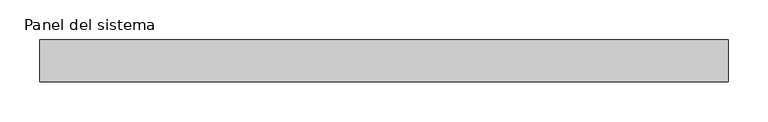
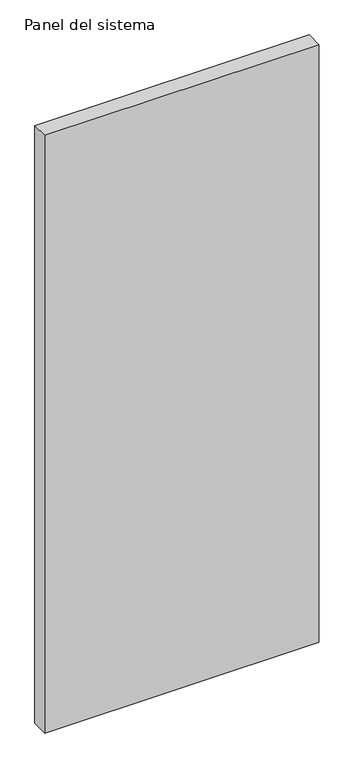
"""IFC4 building model written with IfcOpenShell, lengths in millimetres: plate geometry, Panel del sistema : HIANSA - CHAPA PERFILADA CUBIERTA - MT53MA7 Vert."""

import ifcopenshell
import ifcopenshell.guid

model = None  # the IFC model being written
_history = None  # IfcOwnerHistory: only IFC2X3 demands one
_inside = {}  # id of a spatial element -> (the spatial element, [elements in it])
_under = {}  # id of a project, library or spatial element -> (it, [spatial elements below it])
_declared = {}  # id of a project -> (the project, [libraries it declares])
_typed = {}  # id of a type object -> (the type object, [elements of that type])
_made_of = {}  # id of a material, layer set ... -> (it, [elements and type objects made of it])


def new_model(schema):
    """Start an empty IFC model of exactly this schema.

    Asked for "IFC4X3", IfcOpenShell would pick the latest addendum, in which some entities
    have other attributes; the version numbers below select the first issue.
    IFC2X3 requires an IfcOwnerHistory on every rooted entity: one is made here for all.
    """
    global model, _history
    if schema == "IFC4X3":
        model = ifcopenshell.file(schema_version=(4, 3, 0, 0))
    else:
        model = ifcopenshell.file(schema=schema)
    _inside.clear()
    _under.clear()
    _declared.clear()
    _typed.clear()
    _made_of.clear()
    _history = None
    if model.schema == "IFC2X3":
        org = make("IfcOrganization", Name="unknown")
        user = make(
            "IfcPersonAndOrganization",
            ThePerson=make("IfcPerson", FamilyName="unknown"),
            TheOrganization=org,
        )
        app = make(
            "IfcApplication",
            ApplicationDeveloper=org,
            Version="unknown",
            ApplicationFullName="unknown",
            ApplicationIdentifier="unknown",
        )
        _history = make(
            "IfcOwnerHistory",
            OwningUser=user,
            OwningApplication=app,
            ChangeAction="ADDED",
            CreationDate=0,
        )
    return model


def make(cls, **values):
    """One entity of the class cls with the attributes given. An attribute that is None is left unset."""
    return model.create_entity(
        cls, **{name: value for name, value in values.items() if value is not None}
    )


def rooted(cls, **values):
    """An entity with a GlobalId (a new one), such as an element, a storey or a relation."""
    return make(cls, GlobalId=ifcopenshell.guid.new(), OwnerHistory=_history, **values)


def si_unit(unit_type, name, prefix=None):
    """IfcSIUnit, for example si_unit("LENGTHUNIT", "METRE", prefix="MILLI")."""
    return make("IfcSIUnit", UnitType=unit_type, Prefix=prefix, Name=name)


def assignment(units):
    """IfcUnitAssignment: the units of a project."""
    return None if units is None else make("IfcUnitAssignment", Units=units)


def point(xyz):
    """IfcCartesianPoint."""
    return None if xyz is None else make("IfcCartesianPoint", Coordinates=xyz)


def direction(xyz):
    """IfcDirection."""
    return None if xyz is None else make("IfcDirection", DirectionRatios=xyz)


def frame(location, z_axis=None, x_axis=None):
    """IfcAxis2Placement3D, a coordinate frame: its origin and axes. An axis left out is left unset."""
    return make(
        "IfcAxis2Placement3D",
        Location=point(location),
        Axis=direction(z_axis),
        RefDirection=direction(x_axis),
    )


def origin():
    """The frame at (0, 0, 0) with its axes left unset."""
    return frame((0.0, 0.0, 0.0))


def origin_with_axes():
    """The frame at (0, 0, 0) with the z axis (0, 0, 1) and the x axis (1, 0, 0) written out."""
    return frame((0.0, 0.0, 0.0), z_axis=(0.0, 0.0, 1.0), x_axis=(1.0, 0.0, 0.0))


def place(relative_to, where):
    """IfcLocalPlacement: puts the frame where relative to a parent placement (None: the world)."""
    return make(
        "IfcLocalPlacement", PlacementRelTo=relative_to, RelativePlacement=where
    )


def context(
    kind, dimensions, precision=None, world=None, true_north=None, identifier=None
):
    """IfcGeometricRepresentationContext, for example the 3D "Model" context."""
    return make(
        "IfcGeometricRepresentationContext",
        ContextIdentifier=identifier,
        ContextType=kind,
        CoordinateSpaceDimension=dimensions,
        Precision=precision,
        WorldCoordinateSystem=world,
        TrueNorth=true_north,
    )


def project(units=None, contexts=None):
    """IfcProject with its units and contexts."""
    return rooted(
        "IfcProject",
        Name="project",
        RepresentationContexts=contexts,
        UnitsInContext=assignment(units),
    )


def spatial(cls, under=None, at=None, **own):
    """A site, building, storey or space (cls), placed at a placement, below another one or the project."""
    s = rooted(cls, ObjectPlacement=at, **own)
    if under is not None:
        _under.setdefault(under.id(), (under, []))[1].append(s)
    return s


def polyline(points):
    """IfcPolyline through the points."""
    return make("IfcPolyline", Points=[point(p) for p in points])


def outline(outer, holes=None, kind="AREA"):
    """IfcArbitraryClosedProfileDef: a profile drawn as a closed curve; with holes, ...WithVoids."""
    if holes is None:
        return make("IfcArbitraryClosedProfileDef", ProfileType=kind, OuterCurve=outer)
    return make(
        "IfcArbitraryProfileDefWithVoids",
        ProfileType=kind,
        OuterCurve=outer,
        InnerCurves=holes,
    )


def extrude(swept, where, along, depth):
    """IfcExtrudedAreaSolid: the profile swept, set in the frame where, extruded along a direction by depth."""
    return make(
        "IfcExtrudedAreaSolid",
        SweptArea=swept,
        Position=where,
        ExtrudedDirection=direction(along),
        Depth=depth,
    )


def shape(context_of_items, identifier, shape_type, items):
    """IfcShapeRepresentation: the items that make up one representation, for example the "Body"."""
    return make(
        "IfcShapeRepresentation",
        ContextOfItems=context_of_items,
        RepresentationIdentifier=identifier,
        RepresentationType=shape_type,
        Items=items,
    )


def source(mapping_origin, context_of_items, identifier, shape_type, items):
    """IfcRepresentationMap: a shape defined once, which mapped items show again and again."""
    return make(
        "IfcRepresentationMap",
        MappingOrigin=mapping_origin,
        MappedRepresentation=shape(context_of_items, identifier, shape_type, items),
    )


def transform(
    local_origin,
    x_axis=None,
    y_axis=None,
    z_axis=None,
    scale=None,
    scale2=None,
    scale3=None,
    uniform=True,
):
    """IfcCartesianTransformationOperator3D, or its non-uniform kind. x_axis, y_axis, z_axis: its Axis1, 2, 3."""
    if uniform:
        return make(
            "IfcCartesianTransformationOperator3D",
            Axis1=direction(x_axis),
            Axis2=direction(y_axis),
            LocalOrigin=point(local_origin),
            Scale=scale,
            Axis3=direction(z_axis),
        )
    return make(
        "IfcCartesianTransformationOperator3DnonUniform",
        Axis1=direction(x_axis),
        Axis2=direction(y_axis),
        LocalOrigin=point(local_origin),
        Scale=scale,
        Axis3=direction(z_axis),
        Scale2=scale2,
        Scale3=scale3,
    )


def mapped(mapping_source, mapping_target):
    """IfcMappedItem: shows the shape of a source again, moved by a transform."""
    return make(
        "IfcMappedItem", MappingSource=mapping_source, MappingTarget=mapping_target
    )


def made_of(thing, what):
    """Note that an element or type object is made of a material, layer set ...; save() writes the relation."""
    if what is not None:
        _made_of.setdefault(what.id(), (what, []))[1].append(thing)
    return thing


def element(
    cls,
    number,
    at=None,
    inside=None,
    cuts=None,
    type_object=None,
    material=None,
    context=None,
    identifier="Body",
    shape_type=None,
    held_by="IfcProductDefinitionShape",
    body=None,
    shapes=None,
    **own,
):
    """One element of the class cls, such as IfcWall. Its Tag is "e" and its number.

    at: its placement. inside: the storey or other place that contains it. cuts: it is an
    opening in that element (IfcRelVoidsElement). A single representation is given by context,
    identifier, shape_type and body (its items); several are given by shapes. held_by: the class
    of the entity that holds the representations. save() writes the other relations.
    """
    e = rooted(cls, Tag="e%d" % number, ObjectPlacement=at, **own)
    if body is not None:
        shapes = [shape(context, identifier, shape_type, body)]
    if shapes is not None:
        e.Representation = make(held_by, Representations=shapes)
    if inside is not None:
        _inside.setdefault(inside.id(), (inside, []))[1].append(e)
    if cuts is not None:
        rooted(
            "IfcRelVoidsElement", RelatingBuildingElement=cuts, RelatedOpeningElement=e
        )
    if type_object is not None:
        _typed.setdefault(type_object.id(), (type_object, []))[1].append(e)
    return made_of(e, material)


def aggregate(whole, parts):
    """IfcRelAggregates: a whole, such as a stair, and the parts it consists of."""
    return rooted("IfcRelAggregates", RelatingObject=whole, RelatedObjects=parts)


def save(model, path):
    """Write the relations noted so far, then the file.

    IfcRelAggregates (storeys below a building ...), IfcRelContainedInSpatialStructure (elements
    in a storey), IfcRelDefinesByType, IfcRelAssociatesMaterial and IfcRelDeclares: one each for
    every whole, place, type object, material and project.
    """
    for whole, parts in _under.values():
        aggregate(whole, parts)
    for where, things in _inside.values():
        rooted(
            "IfcRelContainedInSpatialStructure",
            RelatedElements=things,
            RelatingStructure=where,
        )
    for kind, things in _typed.values():
        rooted("IfcRelDefinesByType", RelatedObjects=things, RelatingType=kind)
    for what, things in _made_of.values():
        rooted("IfcRelAssociatesMaterial", RelatedObjects=things, RelatingMaterial=what)
    for by, libraries in _declared.values():
        rooted("IfcRelDeclares", RelatingContext=by, RelatedDefinitions=libraries)
    model.write(path)


def panel_del_sistema_4e5da040(model_context):
    return source(origin(), model_context, "Body", "SweptSolid", [
        extrude(outline(polyline([(434.0000002, -52.5), (-434.0000002, -52.5), (-434.0000002, 0.5), (434.0000002, 0.5), (434.0000002, -52.5)])), origin_with_axes(), (0.0, 0.0, 1.0), 2000.0),
    ])


if __name__ == "__main__":
    model = new_model("IFC4")
    model_context = context("Model", 3, world=origin())
    ifc_project = project(units=[si_unit("LENGTHUNIT", "METRE", prefix="MILLI")], contexts=[model_context])
    site = spatial("IfcSite", under=ifc_project)
    building = spatial("IfcBuilding", under=site)
    placement = place(None, origin())
    panel_del_sistema_shape = panel_del_sistema_4e5da040(model_context)
    element("IfcPlate", 1, ObjectType="Panel del sistema : HIANSA - CHAPA PERFILADA CUBIERTA - MT53MA7 Vert", at=placement, inside=building, context=model_context, shape_type="MappedRepresentation", body=[
        mapped(panel_del_sistema_shape, transform((0.0, 0.0, 0.0), x_axis=(1.0, 0.0, 0.0), y_axis=(0.0, 1.0, 0.0), z_axis=(0.0, 0.0, 1.0))),
    ])
    save(model, "model.ifc")
